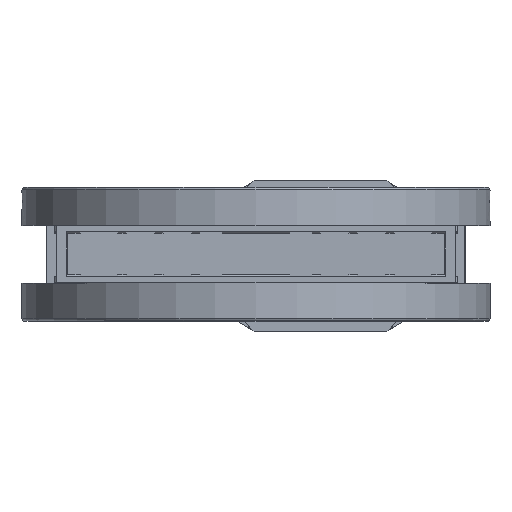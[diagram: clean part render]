
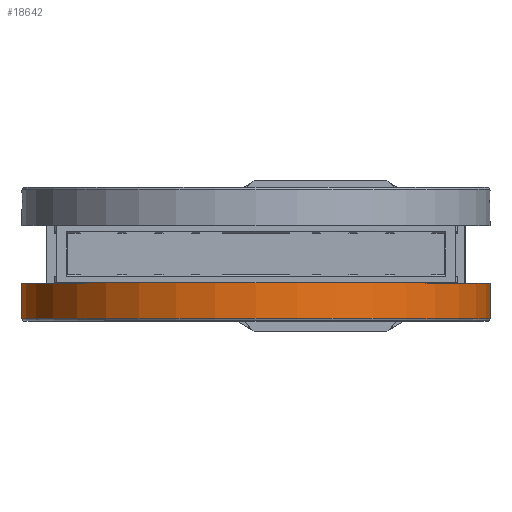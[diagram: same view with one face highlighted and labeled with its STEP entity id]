
A CAD part, top view. The second image highlights one B-rep face of the part: STEP entity #18642.
In plain terms, the highlighted cylindrical face has radius 139.7 mm (diameter 279.4 mm), a full revolution.
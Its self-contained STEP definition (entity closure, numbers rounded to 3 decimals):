
#18642=ADVANCED_FACE('',(#20795,#20796),#20259,.T.);
#20259=CYLINDRICAL_SURFACE('',#45517,139.7);
#20795=FACE_BOUND('',#22427,.T.);
#20796=FACE_BOUND('',#22428,.T.);
#22427=EDGE_LOOP('',(#27836));
#22428=EDGE_LOOP('',(#27837));
#27836=ORIENTED_EDGE('',*,*,#40232,.F.);
#27837=ORIENTED_EDGE('',*,*,#40233,.T.);
#36113=VERTEX_POINT('',#61157);
#36114=VERTEX_POINT('',#61159);
#40232=EDGE_CURVE('',#36113,#36113,#43896,.T.);
#40233=EDGE_CURVE('',#36114,#36114,#43897,.T.);
#43896=CIRCLE('',#45515,139.7);
#43897=CIRCLE('',#45516,139.7);
#45515=AXIS2_PLACEMENT_3D('',#61156,#50664,#50665);
#45516=AXIS2_PLACEMENT_3D('',#61158,#50666,#50667);
#45517=AXIS2_PLACEMENT_3D('',#61160,#50668,#50669);
#50664=DIRECTION('',(0.,1.,0.));
#50665=DIRECTION('',(1.,0.,0.));
#50666=DIRECTION('',(0.,1.,0.));
#50667=DIRECTION('',(1.,0.,0.));
#50668=DIRECTION('',(0.,1.,0.));
#50669=DIRECTION('',(1.,0.,0.));
#61156=CARTESIAN_POINT('',(0.,38.45,412.));
#61157=CARTESIAN_POINT('',(139.7,38.45,412.));
#61158=CARTESIAN_POINT('',(0.,17.25,412.));
#61159=CARTESIAN_POINT('',(139.7,17.25,412.));
#61160=CARTESIAN_POINT('',(0.,39.95,412.));
